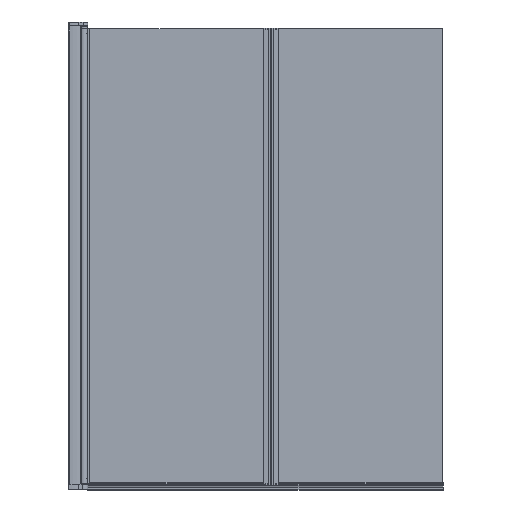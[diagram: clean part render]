
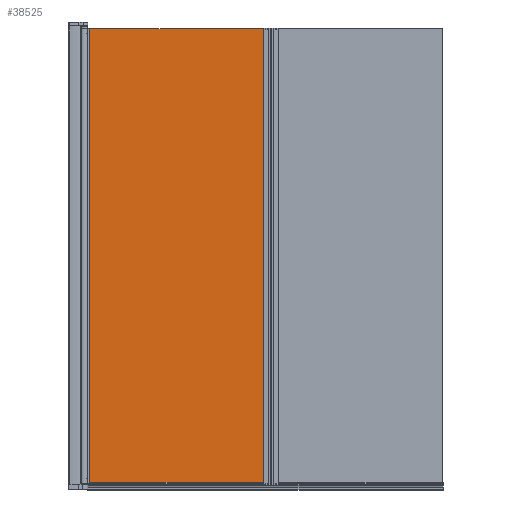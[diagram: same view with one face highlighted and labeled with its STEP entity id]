
A CAD part, front view. The second image highlights one B-rep face of the part: STEP entity #38525.
In plain terms, the highlighted planar face has unit normal (0, -1, 0).
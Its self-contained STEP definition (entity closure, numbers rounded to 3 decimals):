
#3461=FACE_OUTER_BOUND('',#5753,.T.);
#5753=EDGE_LOOP('',(#30481,#30482,#30483,#30484));
#8550=LINE('',#78909,#11583);
#8552=LINE('',#78913,#11585);
#8554=LINE('',#78917,#11587);
#8556=LINE('',#78920,#11589);
#11583=VECTOR('',#49419,583.);
#11585=VECTOR('',#49423,1461.);
#11587=VECTOR('',#49427,583.);
#11589=VECTOR('',#49431,1461.);
#17006=VERTEX_POINT('',#78906);
#17007=VERTEX_POINT('',#78908);
#17008=VERTEX_POINT('',#78912);
#17009=VERTEX_POINT('',#78916);
#21757=EDGE_CURVE('',#17007,#17006,#8550,.T.);
#21759=EDGE_CURVE('',#17008,#17007,#8552,.T.);
#21761=EDGE_CURVE('',#17009,#17008,#8554,.T.);
#21763=EDGE_CURVE('',#17006,#17009,#8556,.T.);
#30481=ORIENTED_EDGE('',*,*,#21757,.T.);
#30482=ORIENTED_EDGE('',*,*,#21763,.T.);
#30483=ORIENTED_EDGE('',*,*,#21761,.T.);
#30484=ORIENTED_EDGE('',*,*,#21759,.T.);
#37137=PLANE('',#41716);
#38525=ADVANCED_FACE('',(#3461),#37137,.T.);
#41716=AXIS2_PLACEMENT_3D('',#78921,#49432,#49433);
#49419=DIRECTION('',(1.,0.,0.));
#49423=DIRECTION('',(0.,0.,-1.));
#49427=DIRECTION('',(-1.,0.,0.));
#49431=DIRECTION('',(0.,0.,1.));
#49432=DIRECTION('center_axis',(0.,-1.,0.));
#49433=DIRECTION('ref_axis',(1.,0.,0.));
#78906=CARTESIAN_POINT('',(607.618,-3.249,-12.049));
#78908=CARTESIAN_POINT('',(24.618,-3.249,-12.049));
#78909=CARTESIAN_POINT('',(24.618,-3.249,-12.049));
#78912=CARTESIAN_POINT('',(24.618,-3.249,1448.951));
#78913=CARTESIAN_POINT('',(24.618,-3.249,1448.951));
#78916=CARTESIAN_POINT('',(607.618,-3.249,1448.951));
#78917=CARTESIAN_POINT('',(607.618,-3.249,1448.951));
#78920=CARTESIAN_POINT('',(607.618,-3.249,-12.049));
#78921=CARTESIAN_POINT('Origin',(24.618,-3.249,-12.049));
